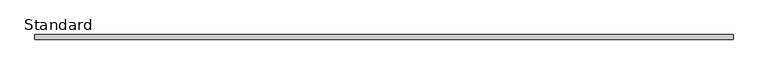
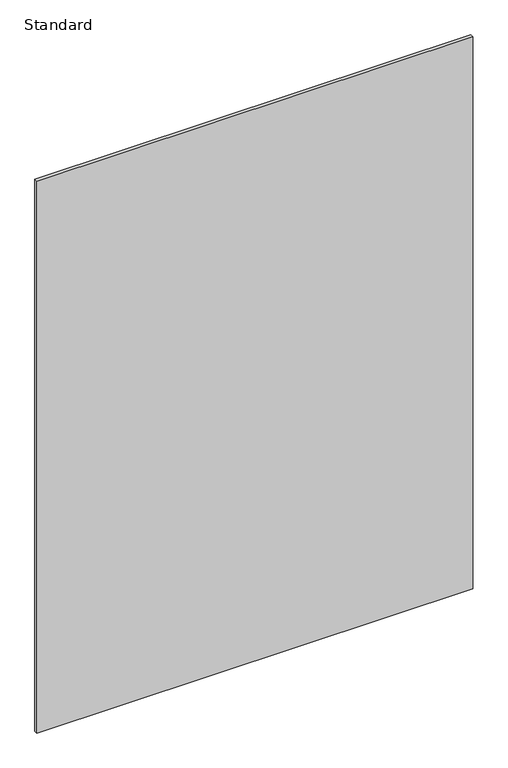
"""IFC4 building model written with IfcOpenShell, lengths in millimetres: furniture geometry, X_Partition-Compact Laminate-Duracube-Rectangular : Standard."""

from ifc_helpers import new_model, si_unit, origin, origin_with_axes, place, context, project, spatial, polyline, outline, extrude, source, transform, mapped, element, save


def standard_8b35f988(model_context):
    return source(origin(), model_context, "Body", "SweptSolid", [
        extrude(outline(polyline([(940.7003264, 0.0), (940.7003264, -13.0), (-851.2996736, -13.0), (-851.2996736, 0.0), (940.7003264, 0.0)])), origin_with_axes(), (0.0, 0.0, 1.0), 2398.0),
    ])


if __name__ == "__main__":
    model = new_model("IFC4")
    model_context = context("Model", 3, world=origin())
    ifc_project = project(units=[si_unit("LENGTHUNIT", "METRE", prefix="MILLI")], contexts=[model_context])
    site = spatial("IfcSite", under=ifc_project)
    building = spatial("IfcBuilding", under=site)
    placement = place(None, origin())
    standard_shape = standard_8b35f988(model_context)
    element("IfcFurniture", 1, ObjectType="X_Partition-Compact Laminate-Duracube-Rectangular : Standard", at=placement, inside=building, context=model_context, shape_type="MappedRepresentation", body=[
        mapped(standard_shape, transform((0.0, 0.0, 0.0), x_axis=(1.0, 0.0, 0.0), y_axis=(0.0, 1.0, 0.0), z_axis=(0.0, 0.0, 1.0))),
    ])
    save(model, "model.ifc")
